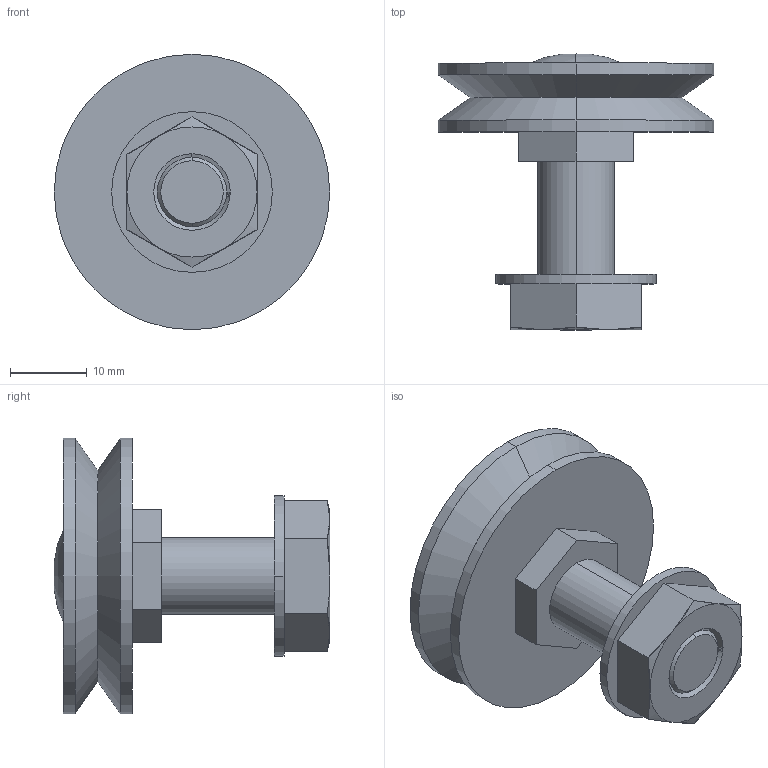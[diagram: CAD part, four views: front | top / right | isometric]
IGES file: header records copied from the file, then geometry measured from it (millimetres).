
Start section: 3D InterOp IGES (v. 2019 1.0.2), Spatial Corp. Copyright (c) 1999-2017.
Global section: file name: GLJ 360 C.igs; native system: Spatial Corp.; preprocessor: 3D InterOp GENERIC/IGES 3.0; author: Noname; organization: Noname; date: 20220628.170610; units: millimetre
Bounding box: 36 x 36.05 x 36 mm (x, y, z)
Surface area: 5055.5 mm2 (no closed solid volume)
Topology: 0 solids, 0 shells, 43 faces, 198 edges, 196 vertices
Faces by surface type: revolution 22, extrusion 19, bspline 2
